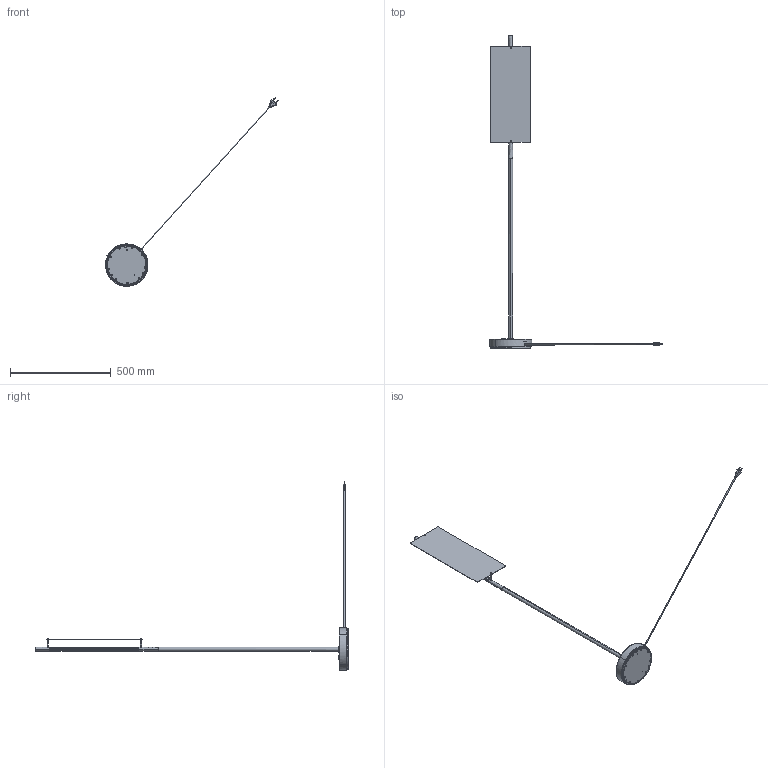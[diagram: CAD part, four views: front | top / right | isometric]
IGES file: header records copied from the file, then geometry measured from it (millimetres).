
Start section: SolidWorks IGES file using analytic representation for surfaces
Global section: file name: C:\SANTACOLE_PDM\Proyectos Catálogo\PROD-P21-004 -- LAMINA VERTICAL\6_Técnico comercial\3D\IGES - web\Lamina Dorada pie.IGS; native system: SolidWorks 2021; preprocessor: SolidWorks 2021; author: clara.galimany; date: 240628.124034; units: millimetre
Bounding box: 856.85 x 1555.3 x 935.04 mm (x, y, z)
Surface area: 537775.9 mm2 (no closed solid volume)
Topology: 0 solids, 0 shells, 633 faces, 8004 edges, 7978 vertices
Faces by surface type: bspline 332, revolution 301
